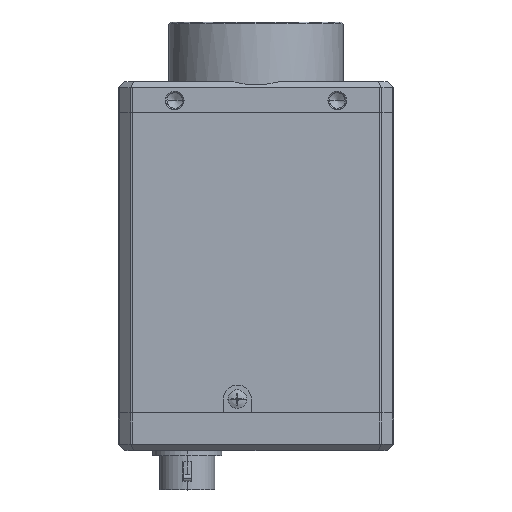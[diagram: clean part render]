
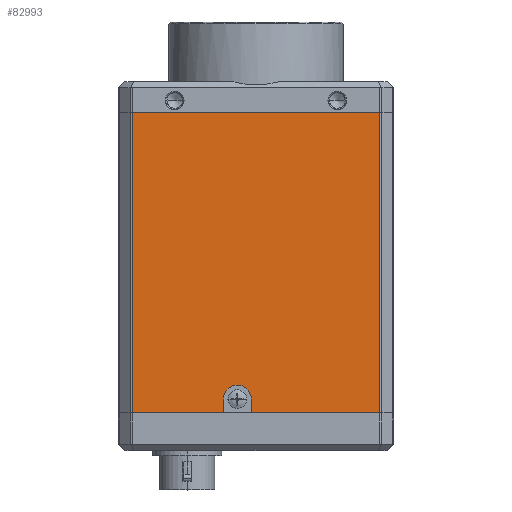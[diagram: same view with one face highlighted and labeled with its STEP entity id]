
A CAD part, top view. The second image highlights one B-rep face of the part: STEP entity #82993.
In plain terms, the highlighted planar face has unit normal (0, 0, 1).
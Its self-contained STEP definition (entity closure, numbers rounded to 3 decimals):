
#81318=CARTESIAN_POINT('',(-3.,-45.8,14.5));
#81319=DIRECTION('',(0.,0.,-1.));
#81320=DIRECTION('',(-1.,0.,0.));
#81321=AXIS2_PLACEMENT_3D('',#81318,#81319,#81320);
#81331=DIRECTION('',(0.,-1.,0.));
#81332=VECTOR('',#81331,2.2);
#81333=CARTESIAN_POINT('',(-0.75,-45.8,14.5));
#81334=LINE('',#81333,#81332);
#81347=DIRECTION('',(1.,0.,0.));
#81348=VECTOR('',#81347,20.543);
#81349=CARTESIAN_POINT('',(-0.75,-48.,14.5));
#81350=LINE('',#81349,#81348);
#81364=DIRECTION('',(0.,1.,0.));
#81365=VECTOR('',#81364,48.);
#81366=CARTESIAN_POINT('',(19.793,-48.,14.5));
#81367=LINE('',#81366,#81365);
#81456=DIRECTION('',(0.,1.,0.));
#81457=VECTOR('',#81456,2.2);
#81458=CARTESIAN_POINT('',(-5.25,-48.,14.5));
#81459=LINE('',#81458,#81457);
#81534=DIRECTION('',(1.,0.,0.));
#81535=VECTOR('',#81534,14.543);
#81536=CARTESIAN_POINT('',(-19.793,-48.,14.5));
#81537=LINE('',#81536,#81535);
#82148=DIRECTION('',(1.,0.,0.));
#82149=VECTOR('',#82148,39.586);
#82150=CARTESIAN_POINT('',(-19.793,0.,14.5));
#82151=LINE('',#82150,#82149);
#82160=DIRECTION('',(0.,-1.,0.));
#82161=VECTOR('',#82160,48.);
#82162=CARTESIAN_POINT('',(-19.793,0.,14.5));
#82163=LINE('',#82162,#82161);
#82730=CARTESIAN_POINT('',(-5.25,-45.8,14.5));
#82731=CARTESIAN_POINT('',(-0.75,-45.8,14.5));
#82732=VERTEX_POINT('',#82730);
#82733=VERTEX_POINT('',#82731);
#82734=CARTESIAN_POINT('',(-5.25,-48.,14.5));
#82735=VERTEX_POINT('',#82734);
#82736=CARTESIAN_POINT('',(-19.793,-48.,14.5));
#82737=VERTEX_POINT('',#82736);
#82738=CARTESIAN_POINT('',(-19.793,0.,14.5));
#82739=VERTEX_POINT('',#82738);
#82740=CARTESIAN_POINT('',(19.793,0.,14.5));
#82741=VERTEX_POINT('',#82740);
#82742=CARTESIAN_POINT('',(19.793,-48.,14.5));
#82743=VERTEX_POINT('',#82742);
#82744=CARTESIAN_POINT('',(-0.75,-48.,14.5));
#82745=VERTEX_POINT('',#82744);
#82970=CARTESIAN_POINT('',(0.,-24.,14.5));
#82971=DIRECTION('',(0.,0.,1.));
#82972=DIRECTION('',(0.,-1.,0.));
#82973=AXIS2_PLACEMENT_3D('',#82970,#82971,#82972);
#82974=PLANE('',#82973);
#82976=ORIENTED_EDGE('',*,*,#82975,.F.);
#82978=ORIENTED_EDGE('',*,*,#82977,.F.);
#82980=ORIENTED_EDGE('',*,*,#82979,.F.);
#82982=ORIENTED_EDGE('',*,*,#82981,.F.);
#82984=ORIENTED_EDGE('',*,*,#82983,.T.);
#82986=ORIENTED_EDGE('',*,*,#82985,.F.);
#82988=ORIENTED_EDGE('',*,*,#82987,.F.);
#82990=ORIENTED_EDGE('',*,*,#82989,.F.);
#82991=EDGE_LOOP('',(#82976,#82978,#82980,#82982,#82984,#82986,#82988,#82990));
#82992=FACE_OUTER_BOUND('',#82991,.F.);
#82993=ADVANCED_FACE('',(#82992),#82974,.T.);
#81322=CIRCLE('',#81321,2.25);
#82975=EDGE_CURVE('',#82732,#82733,#81322,.T.);
#82977=EDGE_CURVE('',#82735,#82732,#81459,.T.);
#82979=EDGE_CURVE('',#82737,#82735,#81537,.T.);
#82981=EDGE_CURVE('',#82739,#82737,#82163,.T.);
#82983=EDGE_CURVE('',#82739,#82741,#82151,.T.);
#82985=EDGE_CURVE('',#82743,#82741,#81367,.T.);
#82987=EDGE_CURVE('',#82745,#82743,#81350,.T.);
#82989=EDGE_CURVE('',#82733,#82745,#81334,.T.);
